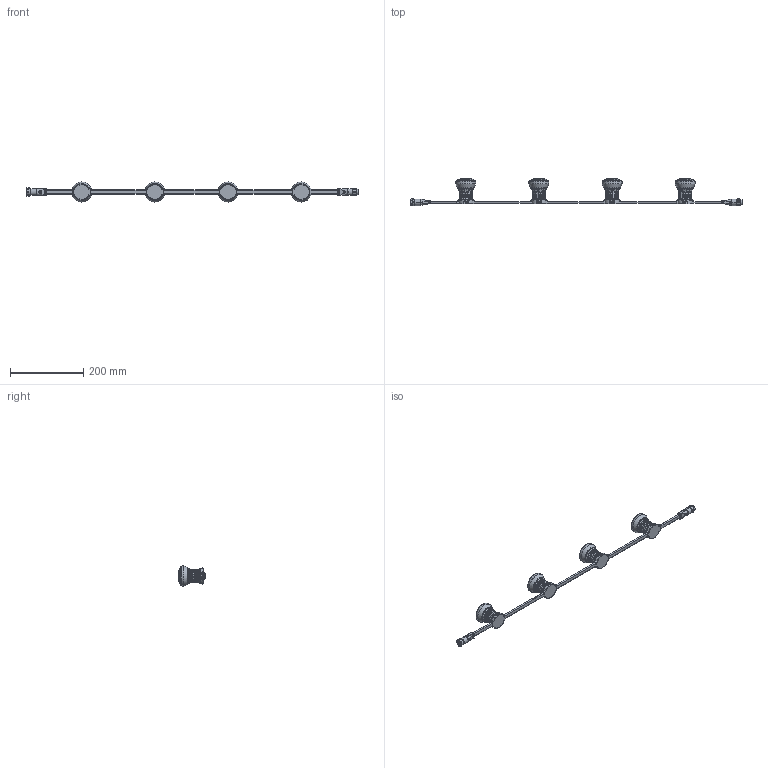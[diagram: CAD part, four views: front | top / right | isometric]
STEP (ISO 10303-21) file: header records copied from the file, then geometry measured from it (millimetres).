
FILE_DESCRIPTION (( 'STEP AP214' ), '1' );
FILE_NAME ('DiGi XT3 & 6 - Turbo.STEP', '2025-08-19T07:19:48', ( '' ), ( '' ), 'SwSTEP 2.0', 'SolidWorks 2025', '' );
FILE_SCHEMA (( 'AUTOMOTIVE_DESIGN' ));
Length unit declared in the file: millimetre
Products named in the file (6): M16 3p Flat mold - Female; Part9^DiGi XT3 & 6; M16 3p Flat mold - Male; DiGi Module XT3 & 6 - Body_XT3 RGBW; DiGi Module XT3 & 6 - Cover - Turbo; DiGi XT3 & 6 - Turbo
Assembly tree (11 placements, depth 2):
  DiGi XT3 & 6 - Turbo
    DiGi Module XT3 & 6 - Body_XT3 RGBW  x4
    Part9^DiGi XT3 & 6
    M16 3p Flat mold - Female
    M16 3p Flat mold - Male
    DiGi Module XT3 & 6 - Cover - Turbo  x4
Bounding box: 907.71 x 75.72 x 54.91 mm (x, y, z)
Volume: 429274.2 mm3; surface area: 95724.8 mm2
Topology: 31 solids, 31 shells, 5195 faces, 12735 edges, 7571 vertices
Faces by surface type: bspline 3468, plane 682, cylinder 627, cone 204, torus 142, sphere 72
Full cylindrical faces by diameter (mm): 1.6 x3, 10.9 x1, 11.8 x1, 14.25 x1, 14.8 x1, 15.2 x1, 31.6 x8, 42 x4
Entity records: 129744 total; most frequent: CARTESIAN_POINT 83008, ORIENTED_EDGE 9268, DIRECTION 4882, EDGE_CURVE 4634, VERTEX_POINT 2802, B_SPLINE_CURVE_WITH_KNOTS 2244, EDGE_LOOP 2040, FACE_OUTER_BOUND 1965
